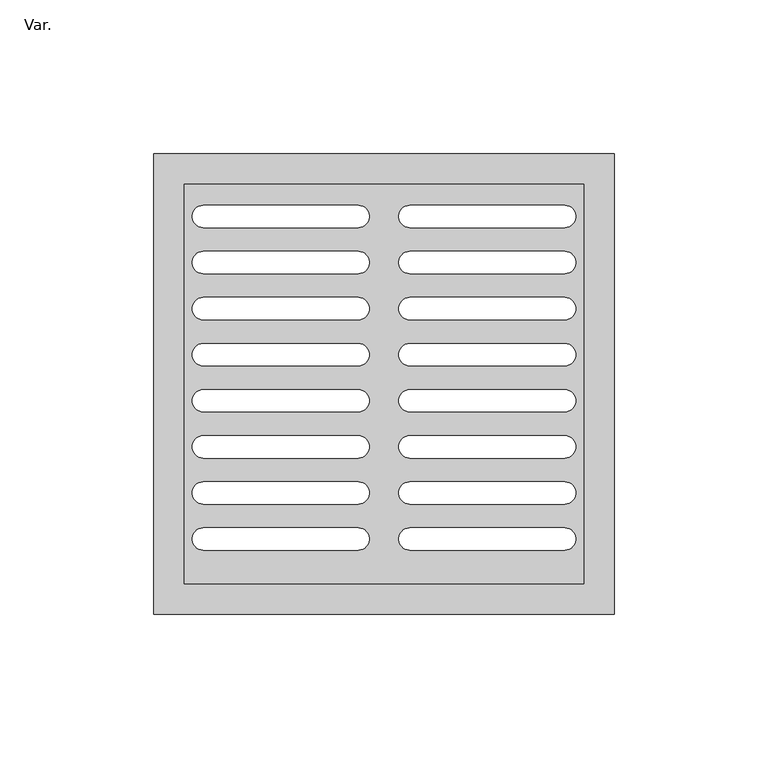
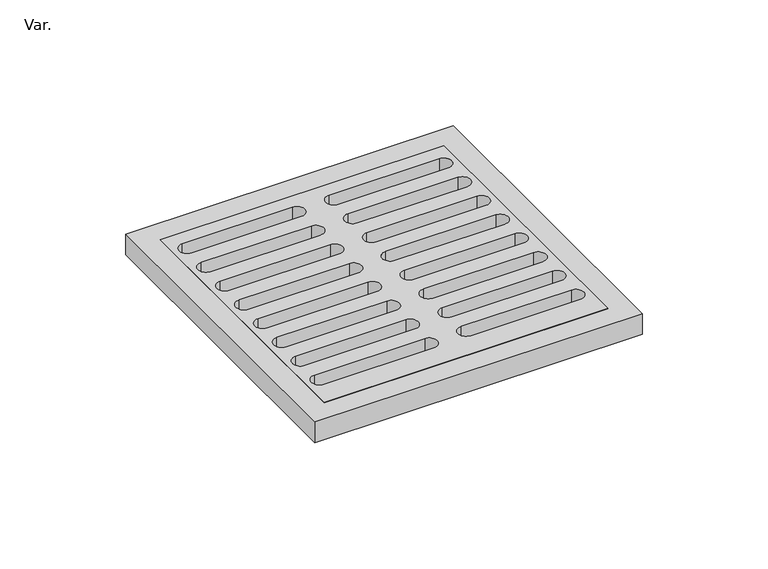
"""IFC4 building model written with IfcOpenShell, lengths in millimetres: pipe fitting geometry, PlastigamaWavin_Unionesdetubería_SanitariaRejillaVentLineal15cm-20cm : Var.."""

from ifc_helpers import new_model, si_unit, point, frame_2d, origin, origin_with_axes, place, context, project, spatial, polyline, circle_curve, trimmed, segment, composite_curve, outline, extrude, source, transform, mapped, element, save


def var_fe89f2a5(model_context):
    return source(origin(), model_context, "Body", "SweptSolid", [
        extrude(outline(polyline([(-65.0, 10.0), (-65.0, 140.0), (65.0, 140.0), (65.0, 10.0), (-65.0, 10.0)]), holes=[composite_curve([segment(polyline([(-8.4352248, 133.1760144), (-58.8101788, 133.1760144)]), True, "CONTINUOUS"), segment(trimmed(circle_curve(frame_2d((-58.8101788, 129.5397941)), 3.6362203), [point((-58.8101788, 133.1760144))], [point((-58.8101788, 125.9035739))], True, "CARTESIAN"), True, "CONTINUOUS"), segment(polyline([(-58.8101788, 125.9035739), (-8.4352248, 125.9035739)]), True, "CONTINUOUS"), segment(trimmed(circle_curve(frame_2d((-8.4352248, 129.5397941)), 3.6362203), [point((-8.4352248, 125.9035739))], [point((-8.4352248, 133.1760144))], True, "CARTESIAN"), True, "CONTINUOUS")], self_intersect=False), composite_curve([segment(polyline([(-8.4352248, 118.1760144), (-58.8101788, 118.1760144)]), True, "CONTINUOUS"), segment(trimmed(circle_curve(frame_2d((-58.8101788, 114.5397941)), 3.6362203), [point((-58.8101788, 118.1760144))], [point((-58.8101788, 110.9035739))], True, "CARTESIAN"), True, "CONTINUOUS"), segment(polyline([(-58.8101788, 110.9035739), (-8.4352248, 110.9035739)]), True, "CONTINUOUS"), segment(trimmed(circle_curve(frame_2d((-8.4352248, 114.5397941)), 3.6362203), [point((-8.4352248, 110.9035739))], [point((-8.4352248, 118.1760144))], True, "CARTESIAN"), True, "CONTINUOUS")], self_intersect=False), composite_curve([segment(polyline([(-8.4352248, 103.1760144), (-58.8101788, 103.1760144)]), True, "CONTINUOUS"), segment(trimmed(circle_curve(frame_2d((-58.8101788, 99.5397941)), 3.6362203), [point((-58.8101788, 103.1760144))], [point((-58.8101788, 95.9035739))], True, "CARTESIAN"), True, "CONTINUOUS"), segment(polyline([(-58.8101788, 95.9035739), (-8.4352248, 95.9035739)]), True, "CONTINUOUS"), segment(trimmed(circle_curve(frame_2d((-8.4352248, 99.5397941)), 3.6362203), [point((-8.4352248, 95.9035739))], [point((-8.4352248, 103.1760144))], True, "CARTESIAN"), True, "CONTINUOUS")], self_intersect=False), composite_curve([segment(polyline([(-8.4352248, 88.1760144), (-58.8101788, 88.1760144)]), True, "CONTINUOUS"), segment(trimmed(circle_curve(frame_2d((-58.8101788, 84.5397941)), 3.6362203), [point((-58.8101788, 88.1760144))], [point((-58.8101788, 80.9035739))], True, "CARTESIAN"), True, "CONTINUOUS"), segment(polyline([(-58.8101788, 80.9035739), (-8.4352248, 80.9035739)]), True, "CONTINUOUS"), segment(trimmed(circle_curve(frame_2d((-8.4352248, 84.5397941)), 3.6362203), [point((-8.4352248, 80.9035739))], [point((-8.4352248, 88.1760144))], True, "CARTESIAN"), True, "CONTINUOUS")], self_intersect=False), composite_curve([segment(polyline([(-8.4352248, 73.1760144), (-58.8101788, 73.1760144)]), True, "CONTINUOUS"), segment(trimmed(circle_curve(frame_2d((-58.8101788, 69.5397941)), 3.6362203), [point((-58.8101788, 73.1760144))], [point((-58.8101788, 65.9035739))], True, "CARTESIAN"), True, "CONTINUOUS"), segment(polyline([(-58.8101788, 65.9035739), (-8.4352248, 65.9035739)]), True, "CONTINUOUS"), segment(trimmed(circle_curve(frame_2d((-8.4352248, 69.5397941)), 3.6362203), [point((-8.4352248, 65.9035739))], [point((-8.4352248, 73.1760144))], True, "CARTESIAN"), True, "CONTINUOUS")], self_intersect=False), composite_curve([segment(polyline([(-8.4352248, 58.1760144), (-58.8101788, 58.1760144)]), True, "CONTINUOUS"), segment(trimmed(circle_curve(frame_2d((-58.8101788, 54.5397941)), 3.6362203), [point((-58.8101788, 58.1760144))], [point((-58.8101788, 50.9035739))], True, "CARTESIAN"), True, "CONTINUOUS"), segment(polyline([(-58.8101788, 50.9035739), (-8.4352248, 50.9035739)]), True, "CONTINUOUS"), segment(trimmed(circle_curve(frame_2d((-8.4352248, 54.5397941)), 3.6362203), [point((-8.4352248, 50.9035739))], [point((-8.4352248, 58.1760144))], True, "CARTESIAN"), True, "CONTINUOUS")], self_intersect=False), composite_curve([segment(polyline([(-8.4352248, 43.1760144), (-58.8101788, 43.1760144)]), True, "CONTINUOUS"), segment(trimmed(circle_curve(frame_2d((-58.8101788, 39.5397941)), 3.6362203), [point((-58.8101788, 43.1760144))], [point((-58.8101788, 35.9035739))], True, "CARTESIAN"), True, "CONTINUOUS"), segment(polyline([(-58.8101788, 35.9035739), (-8.4352248, 35.9035739)]), True, "CONTINUOUS"), segment(trimmed(circle_curve(frame_2d((-8.4352248, 39.5397941)), 3.6362203), [point((-8.4352248, 35.9035739))], [point((-8.4352248, 43.1760144))], True, "CARTESIAN"), True, "CONTINUOUS")], self_intersect=False), composite_curve([segment(polyline([(-8.4352248, 28.1760144), (-58.8101788, 28.1760144)]), True, "CONTINUOUS"), segment(trimmed(circle_curve(frame_2d((-58.8101788, 24.5397941)), 3.6362203), [point((-58.8101788, 28.1760144))], [point((-58.8101788, 20.9035739))], True, "CARTESIAN"), True, "CONTINUOUS"), segment(polyline([(-58.8101788, 20.9035739), (-8.4352248, 20.9035739)]), True, "CONTINUOUS"), segment(trimmed(circle_curve(frame_2d((-8.4352248, 24.5397941)), 3.6362203), [point((-8.4352248, 20.9035739))], [point((-8.4352248, 28.1760144))], True, "CARTESIAN"), True, "CONTINUOUS")], self_intersect=False), composite_curve([segment(polyline([(58.8101788, 133.1760144), (8.4352248, 133.1760144)]), True, "CONTINUOUS"), segment(trimmed(circle_curve(frame_2d((8.4352248, 129.5397941)), 3.6362203), [point((8.4352248, 133.1760144))], [point((8.4352248, 125.9035739))], True, "CARTESIAN"), True, "CONTINUOUS"), segment(polyline([(8.4352248, 125.9035739), (58.8101788, 125.9035739)]), True, "CONTINUOUS"), segment(trimmed(circle_curve(frame_2d((58.8101788, 129.5397941)), 3.6362203), [point((58.8101788, 125.9035739))], [point((58.8101788, 133.1760144))], True, "CARTESIAN"), True, "CONTINUOUS")], self_intersect=False), composite_curve([segment(polyline([(58.8101788, 118.1760144), (8.4352248, 118.1760144)]), True, "CONTINUOUS"), segment(trimmed(circle_curve(frame_2d((8.4352248, 114.5397941)), 3.6362203), [point((8.4352248, 118.1760144))], [point((8.4352248, 110.9035739))], True, "CARTESIAN"), True, "CONTINUOUS"), segment(polyline([(8.4352248, 110.9035739), (58.8101788, 110.9035739)]), True, "CONTINUOUS"), segment(trimmed(circle_curve(frame_2d((58.8101788, 114.5397941)), 3.6362203), [point((58.8101788, 110.9035739))], [point((58.8101788, 118.1760144))], True, "CARTESIAN"), True, "CONTINUOUS")], self_intersect=False), composite_curve([segment(polyline([(58.8101788, 103.1760144), (8.4352248, 103.1760144)]), True, "CONTINUOUS"), segment(trimmed(circle_curve(frame_2d((8.4352248, 99.5397941)), 3.6362203), [point((8.4352248, 103.1760144))], [point((8.4352248, 95.9035739))], True, "CARTESIAN"), True, "CONTINUOUS"), segment(polyline([(8.4352248, 95.9035739), (58.8101788, 95.9035739)]), True, "CONTINUOUS"), segment(trimmed(circle_curve(frame_2d((58.8101788, 99.5397941)), 3.6362203), [point((58.8101788, 95.9035739))], [point((58.8101788, 103.1760144))], True, "CARTESIAN"), True, "CONTINUOUS")], self_intersect=False), composite_curve([segment(polyline([(58.8101788, 88.1760144), (8.4352248, 88.1760144)]), True, "CONTINUOUS"), segment(trimmed(circle_curve(frame_2d((8.4352248, 84.5397941)), 3.6362203), [point((8.4352248, 88.1760144))], [point((8.4352248, 80.9035739))], True, "CARTESIAN"), True, "CONTINUOUS"), segment(polyline([(8.4352248, 80.9035739), (58.8101788, 80.9035739)]), True, "CONTINUOUS"), segment(trimmed(circle_curve(frame_2d((58.8101788, 84.5397941)), 3.6362203), [point((58.8101788, 80.9035739))], [point((58.8101788, 88.1760144))], True, "CARTESIAN"), True, "CONTINUOUS")], self_intersect=False), composite_curve([segment(polyline([(58.8101788, 73.1760144), (8.4352248, 73.1760144)]), True, "CONTINUOUS"), segment(trimmed(circle_curve(frame_2d((8.4352248, 69.5397941)), 3.6362203), [point((8.4352248, 73.1760144))], [point((8.4352248, 65.9035739))], True, "CARTESIAN"), True, "CONTINUOUS"), segment(polyline([(8.4352248, 65.9035739), (58.8101788, 65.9035739)]), True, "CONTINUOUS"), segment(trimmed(circle_curve(frame_2d((58.8101788, 69.5397941)), 3.6362203), [point((58.8101788, 65.9035739))], [point((58.8101788, 73.1760144))], True, "CARTESIAN"), True, "CONTINUOUS")], self_intersect=False), composite_curve([segment(polyline([(58.8101788, 58.1760144), (8.4352248, 58.1760144)]), True, "CONTINUOUS"), segment(trimmed(circle_curve(frame_2d((8.4352248, 54.5397941)), 3.6362203), [point((8.4352248, 58.1760144))], [point((8.4352248, 50.9035739))], True, "CARTESIAN"), True, "CONTINUOUS"), segment(polyline([(8.4352248, 50.9035739), (58.8101788, 50.9035739)]), True, "CONTINUOUS"), segment(trimmed(circle_curve(frame_2d((58.8101788, 54.5397941)), 3.6362203), [point((58.8101788, 50.9035739))], [point((58.8101788, 58.1760144))], True, "CARTESIAN"), True, "CONTINUOUS")], self_intersect=False), composite_curve([segment(polyline([(58.8101788, 43.1760144), (8.4352248, 43.1760144)]), True, "CONTINUOUS"), segment(trimmed(circle_curve(frame_2d((8.4352248, 39.5397941)), 3.6362203), [point((8.4352248, 43.1760144))], [point((8.4352248, 35.9035739))], True, "CARTESIAN"), True, "CONTINUOUS"), segment(polyline([(8.4352248, 35.9035739), (58.8101788, 35.9035739)]), True, "CONTINUOUS"), segment(trimmed(circle_curve(frame_2d((58.8101788, 39.5397941)), 3.6362203), [point((58.8101788, 35.9035739))], [point((58.8101788, 43.1760144))], True, "CARTESIAN"), True, "CONTINUOUS")], self_intersect=False), composite_curve([segment(polyline([(58.8101788, 28.1760144), (8.4352248, 28.1760144)]), True, "CONTINUOUS"), segment(trimmed(circle_curve(frame_2d((8.4352248, 24.5397941)), 3.6362203), [point((8.4352248, 28.1760144))], [point((8.4352248, 20.9035739))], True, "CARTESIAN"), True, "CONTINUOUS"), segment(polyline([(8.4352248, 20.9035739), (58.8101788, 20.9035739)]), True, "CONTINUOUS"), segment(trimmed(circle_curve(frame_2d((58.8101788, 24.5397941)), 3.6362203), [point((58.8101788, 20.9035739))], [point((58.8101788, 28.1760144))], True, "CARTESIAN"), True, "CONTINUOUS")], self_intersect=False)]), origin_with_axes(), (0.0, 0.0, 1.0), 10.0),
        extrude(outline(polyline([(-75.0, 150.0), (75.0, 150.0), (75.0, 0.0), (-75.0, 0.0), (-75.0, 150.0)]), holes=[composite_curve([segment(polyline([(-8.4352248, 133.1760144), (-58.8101788, 133.1760144)]), True, "CONTINUOUS"), segment(trimmed(circle_curve(frame_2d((-58.8101788, 129.5397941)), 3.6362203), [point((-58.8101788, 133.1760144))], [point((-58.8101788, 125.9035739))], True, "CARTESIAN"), True, "CONTINUOUS"), segment(polyline([(-58.8101788, 125.9035739), (-8.4352248, 125.9035739)]), True, "CONTINUOUS"), segment(trimmed(circle_curve(frame_2d((-8.4352248, 129.5397941)), 3.6362203), [point((-8.4352248, 125.9035739))], [point((-8.4352248, 133.1760144))], True, "CARTESIAN"), True, "CONTINUOUS")], self_intersect=False), composite_curve([segment(polyline([(-8.4352248, 118.1760144), (-58.8101788, 118.1760144)]), True, "CONTINUOUS"), segment(trimmed(circle_curve(frame_2d((-58.8101788, 114.5397941)), 3.6362203), [point((-58.8101788, 118.1760144))], [point((-58.8101788, 110.9035739))], True, "CARTESIAN"), True, "CONTINUOUS"), segment(polyline([(-58.8101788, 110.9035739), (-8.4352248, 110.9035739)]), True, "CONTINUOUS"), segment(trimmed(circle_curve(frame_2d((-8.4352248, 114.5397941)), 3.6362203), [point((-8.4352248, 110.9035739))], [point((-8.4352248, 118.1760144))], True, "CARTESIAN"), True, "CONTINUOUS")], self_intersect=False), composite_curve([segment(polyline([(-8.4352248, 103.1760144), (-58.8101788, 103.1760144)]), True, "CONTINUOUS"), segment(trimmed(circle_curve(frame_2d((-58.8101788, 99.5397941)), 3.6362203), [point((-58.8101788, 103.1760144))], [point((-58.8101788, 95.9035739))], True, "CARTESIAN"), True, "CONTINUOUS"), segment(polyline([(-58.8101788, 95.9035739), (-8.4352248, 95.9035739)]), True, "CONTINUOUS"), segment(trimmed(circle_curve(frame_2d((-8.4352248, 99.5397941)), 3.6362203), [point((-8.4352248, 95.9035739))], [point((-8.4352248, 103.1760144))], True, "CARTESIAN"), True, "CONTINUOUS")], self_intersect=False), composite_curve([segment(polyline([(-8.4352248, 88.1760144), (-58.8101788, 88.1760144)]), True, "CONTINUOUS"), segment(trimmed(circle_curve(frame_2d((-58.8101788, 84.5397941)), 3.6362203), [point((-58.8101788, 88.1760144))], [point((-58.8101788, 80.9035739))], True, "CARTESIAN"), True, "CONTINUOUS"), segment(polyline([(-58.8101788, 80.9035739), (-8.4352248, 80.9035739)]), True, "CONTINUOUS"), segment(trimmed(circle_curve(frame_2d((-8.4352248, 84.5397941)), 3.6362203), [point((-8.4352248, 80.9035739))], [point((-8.4352248, 88.1760144))], True, "CARTESIAN"), True, "CONTINUOUS")], self_intersect=False), composite_curve([segment(polyline([(-8.4352248, 73.1760144), (-58.8101788, 73.1760144)]), True, "CONTINUOUS"), segment(trimmed(circle_curve(frame_2d((-58.8101788, 69.5397941)), 3.6362203), [point((-58.8101788, 73.1760144))], [point((-58.8101788, 65.9035739))], True, "CARTESIAN"), True, "CONTINUOUS"), segment(polyline([(-58.8101788, 65.9035739), (-8.4352248, 65.9035739)]), True, "CONTINUOUS"), segment(trimmed(circle_curve(frame_2d((-8.4352248, 69.5397941)), 3.6362203), [point((-8.4352248, 65.9035739))], [point((-8.4352248, 73.1760144))], True, "CARTESIAN"), True, "CONTINUOUS")], self_intersect=False), composite_curve([segment(polyline([(-8.4352248, 58.1760144), (-58.8101788, 58.1760144)]), True, "CONTINUOUS"), segment(trimmed(circle_curve(frame_2d((-58.8101788, 54.5397941)), 3.6362203), [point((-58.8101788, 58.1760144))], [point((-58.8101788, 50.9035739))], True, "CARTESIAN"), True, "CONTINUOUS"), segment(polyline([(-58.8101788, 50.9035739), (-8.4352248, 50.9035739)]), True, "CONTINUOUS"), segment(trimmed(circle_curve(frame_2d((-8.4352248, 54.5397941)), 3.6362203), [point((-8.4352248, 50.9035739))], [point((-8.4352248, 58.1760144))], True, "CARTESIAN"), True, "CONTINUOUS")], self_intersect=False), composite_curve([segment(polyline([(-8.4352248, 43.1760144), (-58.8101788, 43.1760144)]), True, "CONTINUOUS"), segment(trimmed(circle_curve(frame_2d((-58.8101788, 39.5397941)), 3.6362203), [point((-58.8101788, 43.1760144))], [point((-58.8101788, 35.9035739))], True, "CARTESIAN"), True, "CONTINUOUS"), segment(polyline([(-58.8101788, 35.9035739), (-8.4352248, 35.9035739)]), True, "CONTINUOUS"), segment(trimmed(circle_curve(frame_2d((-8.4352248, 39.5397941)), 3.6362203), [point((-8.4352248, 35.9035739))], [point((-8.4352248, 43.1760144))], True, "CARTESIAN"), True, "CONTINUOUS")], self_intersect=False), composite_curve([segment(polyline([(-8.4352248, 28.1760144), (-58.8101788, 28.1760144)]), True, "CONTINUOUS"), segment(trimmed(circle_curve(frame_2d((-58.8101788, 24.5397941)), 3.6362203), [point((-58.8101788, 28.1760144))], [point((-58.8101788, 20.9035739))], True, "CARTESIAN"), True, "CONTINUOUS"), segment(polyline([(-58.8101788, 20.9035739), (-8.4352248, 20.9035739)]), True, "CONTINUOUS"), segment(trimmed(circle_curve(frame_2d((-8.4352248, 24.5397941)), 3.6362203), [point((-8.4352248, 20.9035739))], [point((-8.4352248, 28.1760144))], True, "CARTESIAN"), True, "CONTINUOUS")], self_intersect=False), composite_curve([segment(polyline([(58.8101788, 133.1760144), (8.4352248, 133.1760144)]), True, "CONTINUOUS"), segment(trimmed(circle_curve(frame_2d((8.4352248, 129.5397941)), 3.6362203), [point((8.4352248, 133.1760144))], [point((8.4352248, 125.9035739))], True, "CARTESIAN"), True, "CONTINUOUS"), segment(polyline([(8.4352248, 125.9035739), (58.8101788, 125.9035739)]), True, "CONTINUOUS"), segment(trimmed(circle_curve(frame_2d((58.8101788, 129.5397941)), 3.6362203), [point((58.8101788, 125.9035739))], [point((58.8101788, 133.1760144))], True, "CARTESIAN"), True, "CONTINUOUS")], self_intersect=False), composite_curve([segment(polyline([(58.8101788, 118.1760144), (8.4352248, 118.1760144)]), True, "CONTINUOUS"), segment(trimmed(circle_curve(frame_2d((8.4352248, 114.5397941)), 3.6362203), [point((8.4352248, 118.1760144))], [point((8.4352248, 110.9035739))], True, "CARTESIAN"), True, "CONTINUOUS"), segment(polyline([(8.4352248, 110.9035739), (58.8101788, 110.9035739)]), True, "CONTINUOUS"), segment(trimmed(circle_curve(frame_2d((58.8101788, 114.5397941)), 3.6362203), [point((58.8101788, 110.9035739))], [point((58.8101788, 118.1760144))], True, "CARTESIAN"), True, "CONTINUOUS")], self_intersect=False), composite_curve([segment(polyline([(58.8101788, 103.1760144), (8.4352248, 103.1760144)]), True, "CONTINUOUS"), segment(trimmed(circle_curve(frame_2d((8.4352248, 99.5397941)), 3.6362203), [point((8.4352248, 103.1760144))], [point((8.4352248, 95.9035739))], True, "CARTESIAN"), True, "CONTINUOUS"), segment(polyline([(8.4352248, 95.9035739), (58.8101788, 95.9035739)]), True, "CONTINUOUS"), segment(trimmed(circle_curve(frame_2d((58.8101788, 99.5397941)), 3.6362203), [point((58.8101788, 95.9035739))], [point((58.8101788, 103.1760144))], True, "CARTESIAN"), True, "CONTINUOUS")], self_intersect=False), composite_curve([segment(polyline([(58.8101788, 88.1760144), (8.4352248, 88.1760144)]), True, "CONTINUOUS"), segment(trimmed(circle_curve(frame_2d((8.4352248, 84.5397941)), 3.6362203), [point((8.4352248, 88.1760144))], [point((8.4352248, 80.9035739))], True, "CARTESIAN"), True, "CONTINUOUS"), segment(polyline([(8.4352248, 80.9035739), (58.8101788, 80.9035739)]), True, "CONTINUOUS"), segment(trimmed(circle_curve(frame_2d((58.8101788, 84.5397941)), 3.6362203), [point((58.8101788, 80.9035739))], [point((58.8101788, 88.1760144))], True, "CARTESIAN"), True, "CONTINUOUS")], self_intersect=False), composite_curve([segment(polyline([(58.8101788, 73.1760144), (8.4352248, 73.1760144)]), True, "CONTINUOUS"), segment(trimmed(circle_curve(frame_2d((8.4352248, 69.5397941)), 3.6362203), [point((8.4352248, 73.1760144))], [point((8.4352248, 65.9035739))], True, "CARTESIAN"), True, "CONTINUOUS"), segment(polyline([(8.4352248, 65.9035739), (58.8101788, 65.9035739)]), True, "CONTINUOUS"), segment(trimmed(circle_curve(frame_2d((58.8101788, 69.5397941)), 3.6362203), [point((58.8101788, 65.9035739))], [point((58.8101788, 73.1760144))], True, "CARTESIAN"), True, "CONTINUOUS")], self_intersect=False), composite_curve([segment(polyline([(58.8101788, 58.1760144), (8.4352248, 58.1760144)]), True, "CONTINUOUS"), segment(trimmed(circle_curve(frame_2d((8.4352248, 54.5397941)), 3.6362203), [point((8.4352248, 58.1760144))], [point((8.4352248, 50.9035739))], True, "CARTESIAN"), True, "CONTINUOUS"), segment(polyline([(8.4352248, 50.9035739), (58.8101788, 50.9035739)]), True, "CONTINUOUS"), segment(trimmed(circle_curve(frame_2d((58.8101788, 54.5397941)), 3.6362203), [point((58.8101788, 50.9035739))], [point((58.8101788, 58.1760144))], True, "CARTESIAN"), True, "CONTINUOUS")], self_intersect=False), composite_curve([segment(polyline([(58.8101788, 43.1760144), (8.4352248, 43.1760144)]), True, "CONTINUOUS"), segment(trimmed(circle_curve(frame_2d((8.4352248, 39.5397941)), 3.6362203), [point((8.4352248, 43.1760144))], [point((8.4352248, 35.9035739))], True, "CARTESIAN"), True, "CONTINUOUS"), segment(polyline([(8.4352248, 35.9035739), (58.8101788, 35.9035739)]), True, "CONTINUOUS"), segment(trimmed(circle_curve(frame_2d((58.8101788, 39.5397941)), 3.6362203), [point((58.8101788, 35.9035739))], [point((58.8101788, 43.1760144))], True, "CARTESIAN"), True, "CONTINUOUS")], self_intersect=False), composite_curve([segment(polyline([(58.8101788, 28.1760144), (8.4352248, 28.1760144)]), True, "CONTINUOUS"), segment(trimmed(circle_curve(frame_2d((8.4352248, 24.5397941)), 3.6362203), [point((8.4352248, 28.1760144))], [point((8.4352248, 20.9035739))], True, "CARTESIAN"), True, "CONTINUOUS"), segment(polyline([(8.4352248, 20.9035739), (58.8101788, 20.9035739)]), True, "CONTINUOUS"), segment(trimmed(circle_curve(frame_2d((58.8101788, 24.5397941)), 3.6362203), [point((58.8101788, 20.9035739))], [point((58.8101788, 28.1760144))], True, "CARTESIAN"), True, "CONTINUOUS")], self_intersect=False)]), origin_with_axes(), (0.0, 0.0, 1.0), 10.0),
    ])


if __name__ == "__main__":
    model = new_model("IFC4")
    model_context = context("Model", 3, world=origin())
    ifc_project = project(units=[si_unit("LENGTHUNIT", "METRE", prefix="MILLI")], contexts=[model_context])
    site = spatial("IfcSite", under=ifc_project)
    building = spatial("IfcBuilding", under=site)
    placement = place(None, origin())
    var_shape = var_fe89f2a5(model_context)
    element("IfcPipeFitting", 1, ObjectType="PlastigamaWavin_Unionesdetubería_SanitariaRejillaVentLineal15cm-20cm : Var.", at=placement, inside=building, context=model_context, shape_type="MappedRepresentation", body=[
        mapped(var_shape, transform((0.0, 0.0, 0.0), x_axis=(1.0, 0.0, 0.0), y_axis=(0.0, 1.0, 0.0), z_axis=(0.0, 0.0, 1.0))),
    ])
    save(model, "model.ifc")
